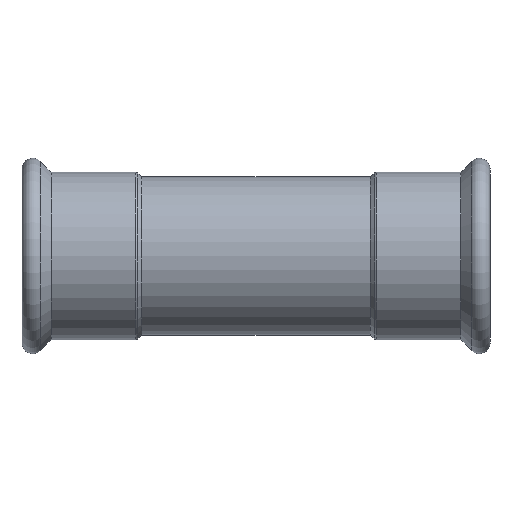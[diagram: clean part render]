
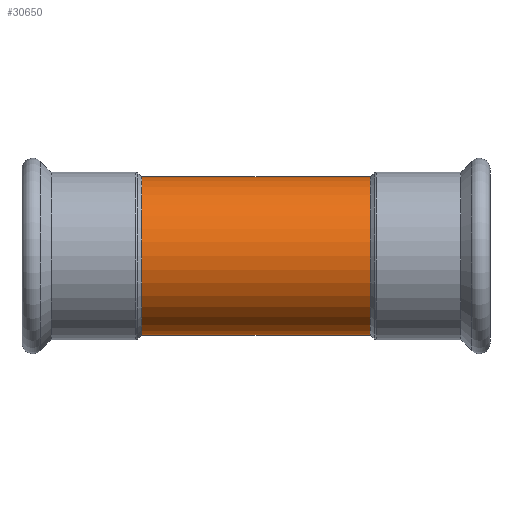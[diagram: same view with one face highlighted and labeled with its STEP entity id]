
A CAD part, top view. The second image highlights one B-rep face of the part: STEP entity #30650.
In plain terms, the highlighted cylindrical face has radius 44.45 mm (diameter 88.9 mm), a partial arc.
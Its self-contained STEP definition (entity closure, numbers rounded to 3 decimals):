
#7960=CARTESIAN_POINT('',(-32.193,109.409,
0.));
#7970=DIRECTION('',(1.,0.,0.));
#7980=DIRECTION('',(0.,0.,-1.));
#7990=AXIS2_PLACEMENT_3D('',#7960,#7970,#7980);
#8000=CYLINDRICAL_SURFACE('',#7990,44.45);
#30290=CARTESIAN_POINT('',(-32.193,109.409,-44.45));
#30300=DIRECTION('',(1.,0.,0.));
#30310=VECTOR('',#30300,1.);
#30320=LINE('',#30290,#30310);
#30330=CARTESIAN_POINT('',(-160.193,109.409,-44.45));
#30340=VERTEX_POINT('',#30330);
#30350=CARTESIAN_POINT('',(-32.193,109.409,-44.45));
#30360=VERTEX_POINT('',#30350);
#30370=EDGE_CURVE('',#30340,#30360,#30320,.T.);
#30380=ORIENTED_EDGE('',*,*,#30370,.F.);
#30390=CARTESIAN_POINT('',(-32.193,109.409,
0.));
#30400=DIRECTION('',(1.,0.,0.));
#30410=DIRECTION('',(0.,0.,1.));
#30420=AXIS2_PLACEMENT_3D('',#30390,#30400,#30410);
#30430=CIRCLE('',#30420,44.45);
#30440=CARTESIAN_POINT('',(-32.193,109.409,44.45));
#30450=VERTEX_POINT('',#30440);
#30460=EDGE_CURVE('',#30360,#30450,#30430,.T.);
#30470=ORIENTED_EDGE('',*,*,#30460,.F.);
#30480=CARTESIAN_POINT('',(-32.193,109.409,44.45));
#30490=DIRECTION('',(1.,0.,0.));
#30500=VECTOR('',#30490,1.);
#30510=LINE('',#30480,#30500);
#30520=CARTESIAN_POINT('',(-160.193,109.409,44.45));
#30530=VERTEX_POINT('',#30520);
#30540=EDGE_CURVE('',#30530,#30450,#30510,.T.);
#30550=ORIENTED_EDGE('',*,*,#30540,.T.);
#30560=CARTESIAN_POINT('',(-160.193,109.409,
0.));
#30570=DIRECTION('',(1.,0.,0.));
#30580=DIRECTION('',(0.,0.,-1.));
#30590=AXIS2_PLACEMENT_3D('',#30560,#30570,#30580);
#30600=CIRCLE('',#30590,44.45);
#30610=EDGE_CURVE('',#30340,#30530,#30600,.T.);
#30620=ORIENTED_EDGE('',*,*,#30610,.T.);
#30630=EDGE_LOOP('',(#30620,#30550,#30470,#30380));
#30640=FACE_OUTER_BOUND('',#30630,.T.);
#30650=ADVANCED_FACE('',(#30640),#8000,.T.);
